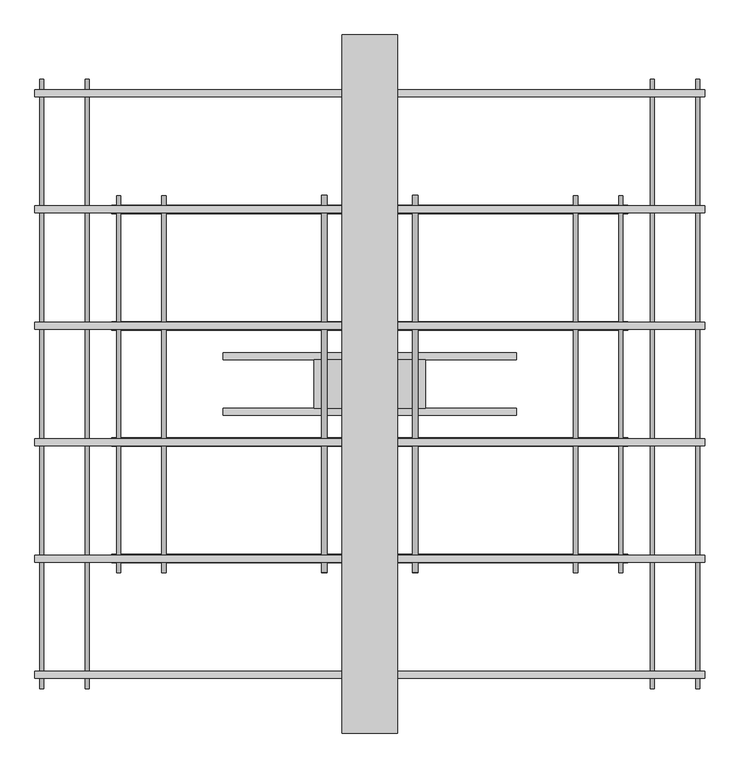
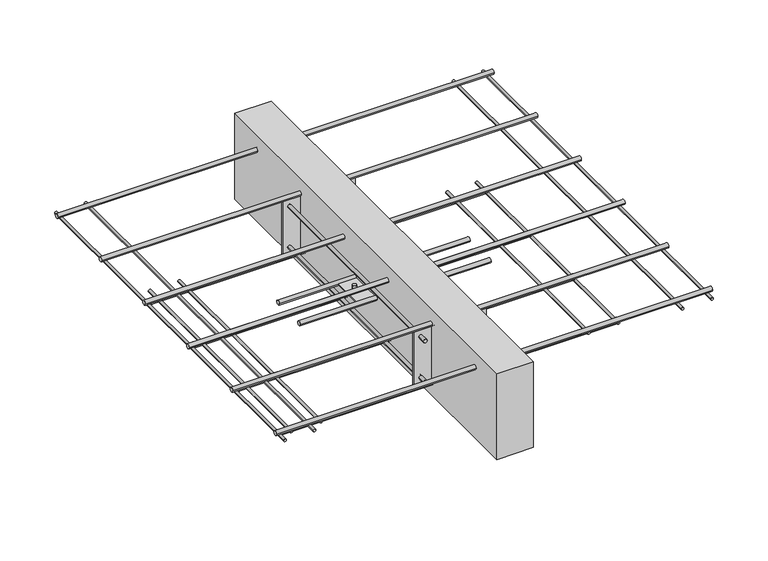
"""IFC4 building model written with IfcOpenShell, lengths in millimetres: proxy geometry, ACINOXplus_Typenreihe_K : KC+ S1."""

from ifc_helpers import new_model, si_unit, point, frame, frame_2d, origin, place, context, project, spatial, polyline, circle_curve, trimmed, segment, composite_curve, outline, extrude, source, transform, mapped, element, save
from ifc_brep_helpers import plane_surface, cylinder_surface, advanced_brep


def generic_models_9b6200fb(model_context):
    return source(origin(), model_context, "Body", "SolidModel", [
        extrude(outline(polyline([(40.0, 500.0), (40.0, -500.0), (-40.0, -500.0), (-40.0, 500.0), (40.0, 500.0)])), frame((0.0, 0.0, -200.0), z_axis=(0.0, 0.0, 1.0), x_axis=(1.0, 0.0, 0.0)), (0.0, 0.0, 1.0), 200.0),
        extrude(outline(composite_curve([segment(trimmed(circle_curve(frame_2d((-40.0, -102.5)), 5.0), [point((-45.0, -102.5))], [point((-35.0, -102.5))], False, "CARTESIAN"), True, "CONTINUOUS"), segment(trimmed(circle_curve(frame_2d((-40.0, -102.5)), 5.0), [point((-35.0, -102.5))], [point((-45.0, -102.5))], False, "CARTESIAN"), True, "CONTINUOUS")], self_intersect=False)), frame((-210.0, 0.0, 0.0), z_axis=(1.0, 0.0, 0.0), x_axis=(0.0, 1.0, 0.0)), (0.0, 0.0, 1.0), 420.0),
        extrude(outline(composite_curve([segment(trimmed(circle_curve(frame_2d((40.0, -102.5)), 5.0), [point((35.0, -102.5))], [point((45.0, -102.5))], False, "CARTESIAN"), True, "CONTINUOUS"), segment(trimmed(circle_curve(frame_2d((40.0, -102.5)), 5.0), [point((45.0, -102.5))], [point((35.0, -102.5))], False, "CARTESIAN"), True, "CONTINUOUS")], self_intersect=False)), frame((-210.0, 0.0, 0.0), z_axis=(1.0, 0.0, 0.0), x_axis=(0.0, 1.0, 0.0)), (0.0, 0.0, 1.0), 420.0),
        advanced_brep(
        [(-69.0, 0.0, -87.5), (-61.0, 0.0, -87.5), (61.0, 0.0, -87.5), (69.0, 0.0, -87.5), (-69.0, 0.0, -117.5), (-61.0, 0.0, -117.5), (61.0, 0.0, -117.5), (69.0, 0.0, -117.5), (-69.0, 0.0, -101.0), (-61.0, 0.0, -101.0), (-61.0, 0.0, -104.0), (-69.0, 0.0, -104.0), (61.0, 0.0, -101.0), (69.0, 0.0, -101.0), (69.0, 0.0, -104.0), (61.0, 0.0, -104.0), (80.0, 35.0, -101.0), (-80.0, 35.0, -101.0), (-80.0, -35.0, -101.0), (80.0, -35.0, -101.0), (80.0, 35.0, -104.0), (80.0, -35.0, -104.0), (-80.0, -35.0, -104.0), (-80.0, 35.0, -104.0)],
        [
            (0, 1, circle_curve(frame((-65.0, 0.0, -87.5), z_axis=(0.0, 0.0, 1.0), x_axis=(1.0, 0.0, 0.0)), 4.0)),
            (1, 0, circle_curve(frame((-65.0, 0.0, -87.5), z_axis=(0.0, 0.0, 1.0), x_axis=(1.0, 0.0, 0.0)), 4.0)),
            (2, 3, circle_curve(frame((65.0, 0.0, -87.5), z_axis=(0.0, 0.0, 1.0), x_axis=(1.0, 0.0, 0.0)), 4.0)),
            (3, 2, circle_curve(frame((65.0, 0.0, -87.5), z_axis=(0.0, 0.0, 1.0), x_axis=(1.0, 0.0, 0.0)), 4.0)),
            (4, 5, circle_curve(frame((-65.0, 0.0, -117.5), z_axis=(0.0, 0.0, -1.0), x_axis=(1.0, 0.0, 0.0)), 4.0)),
            (5, 4, circle_curve(frame((-65.0, 0.0, -117.5), z_axis=(0.0, 0.0, -1.0), x_axis=(1.0, 0.0, 0.0)), 4.0)),
            (6, 7, circle_curve(frame((65.0, 0.0, -117.5), z_axis=(0.0, 0.0, -1.0), x_axis=(1.0, 0.0, 0.0)), 4.0)),
            (7, 6, circle_curve(frame((65.0, 0.0, -117.5), z_axis=(0.0, 0.0, -1.0), x_axis=(1.0, 0.0, 0.0)), 4.0)),
            (0, 8),
            (8, 9, circle_curve(frame((-65.0, 0.0, -101.0), z_axis=(0.0, 0.0, 1.0), x_axis=(1.0, 0.0, 0.0)), 4.0)),
            (9, 1),
            (5, 10),
            (10, 11, circle_curve(frame((-65.0, 0.0, -104.0), z_axis=(0.0, 0.0, -1.0), x_axis=(1.0, 0.0, 0.0)), 4.0)),
            (11, 4),
            (9, 8, circle_curve(frame((-65.0, 0.0, -101.0), z_axis=(0.0, 0.0, 1.0), x_axis=(1.0, 0.0, 0.0)), 4.0)),
            (11, 10, circle_curve(frame((-65.0, 0.0, -104.0), z_axis=(0.0, 0.0, -1.0), x_axis=(1.0, 0.0, 0.0)), 4.0)),
            (2, 12),
            (12, 13, circle_curve(frame((65.0, 0.0, -101.0), z_axis=(0.0, 0.0, 1.0), x_axis=(1.0, 0.0, 0.0)), 4.0)),
            (13, 3),
            (7, 14),
            (14, 15, circle_curve(frame((65.0, 0.0, -104.0), z_axis=(0.0, 0.0, -1.0), x_axis=(1.0, 0.0, 0.0)), 4.0)),
            (15, 6),
            (13, 12, circle_curve(frame((65.0, 0.0, -101.0), z_axis=(0.0, 0.0, 1.0), x_axis=(1.0, 0.0, 0.0)), 4.0)),
            (15, 14, circle_curve(frame((65.0, 0.0, -104.0), z_axis=(0.0, 0.0, -1.0), x_axis=(1.0, 0.0, 0.0)), 4.0)),
            (16, 17),
            (17, 18),
            (18, 19),
            (19, 16),
            (20, 21),
            (21, 22),
            (22, 23),
            (23, 20),
            (16, 20),
            (23, 17),
            (22, 18),
            (21, 19),
        ],
        [
            plane_surface(frame((-61.0, 0.0, -87.5), z_axis=(0.0, 0.0, 1.0), x_axis=(0.0, 1.0, 0.0))),
            plane_surface(frame((-61.0, 0.0, -117.5), z_axis=(0.0, 0.0, -1.0), x_axis=(0.0, -1.0, 0.0))),
            cylinder_surface(frame((-65.0, 0.0, -117.5), z_axis=(0.0, 0.0, 1.0), x_axis=(1.0, 0.0, 0.0)), 4.0),
            cylinder_surface(frame((65.0, 0.0, -102.5), z_axis=(0.0, 0.0, 1.0), x_axis=(1.0, 0.0, 0.0)), 4.0),
            plane_surface(frame((-80.0, 35.0, -101.0), z_axis=(0.0, 0.0, 1.0), x_axis=(-1.0, 0.0, 0.0))),
            plane_surface(frame((-80.0, 35.0, -104.0), z_axis=(0.0, 0.0, -1.0), x_axis=(1.0, 0.0, 0.0))),
            plane_surface(frame((80.0, 35.0, -101.0), z_axis=(0.0, 1.0, 0.0), x_axis=(0.0, 0.0, -1.0))),
            plane_surface(frame((-80.0, 35.0, -101.0), z_axis=(-1.0, 0.0, 0.0), x_axis=(0.0, 0.0, -1.0))),
            plane_surface(frame((-80.0, -35.0, -101.0), z_axis=(0.0, -1.0, 0.0), x_axis=(0.0, 0.0, -1.0))),
            plane_surface(frame((80.0, -35.0, -101.0), z_axis=(1.0, 0.0, 0.0), x_axis=(0.0, 0.0, -1.0))),
        ],
        [
            (0, [[1, 2]]),
            (0, [[3, 4]]),
            (1, [[5, 6]]),
            (1, [[7, 8]]),
            (2, [[-1, 9, 10, 11]]),
            (2, [[-6, 12, 13, 14]]),
            (2, [[-2, -11, 15, -9]]),
            (2, [[-5, -14, 16, -12]]),
            (3, [[-3, 17, 18, 19]]),
            (3, [[-8, 20, 21, 22]]),
            (3, [[-4, -19, 23, -17]]),
            (3, [[-7, -22, 24, -20]]),
            (4, [[25, 26, 27, 28], [-10, -15], [-18, -23]]),
            (5, [[29, 30, 31, 32], [-13, -16], [-21, -24]]),
            (6, [[-25, 33, -32, 34]]),
            (7, [[-26, -34, -31, 35]]),
            (8, [[-27, -35, -30, 36]]),
            (9, [[-28, -36, -29, -33]]),
        ],
    ),
        extrude(outline(polyline([(80.0, -248.5), (80.0, -251.5), (-80.0, -251.5), (-80.0, -248.5), (80.0, -248.5)])), frame((0.0, 0.0, -165.0), z_axis=(0.0, 0.0, 1.0), x_axis=(1.0, 0.0, 0.0)), (0.0, 0.0, 1.0), 125.0),
        extrude(outline(polyline([(80.0, 251.5), (80.0, 248.5), (-80.0, 248.5), (-80.0, 251.5), (80.0, 251.5)])), frame((0.0, 0.0, -165.0), z_axis=(0.0, 0.0, 1.0), x_axis=(1.0, 0.0, 0.0)), (0.0, 0.0, 1.0), 125.0),
        extrude(outline(composite_curve([segment(trimmed(circle_curve(frame_2d((-150.0, -65.0)), 4.0), [point((-150.0, -61.0))], [point((-150.0, -69.0))], False, "CARTESIAN"), True, "CONTINUOUS"), segment(trimmed(circle_curve(frame_2d((-150.0, -65.0)), 4.0), [point((-150.0, -69.0))], [point((-150.0, -61.0))], False, "CARTESIAN"), True, "CONTINUOUS")], self_intersect=False)), frame((0.0, -270.0, 0.0), z_axis=(0.0, 1.0, 0.0), x_axis=(0.0, 0.0, 1.0)), (0.0, 0.0, 1.0), 18.5),
        extrude(outline(composite_curve([segment(trimmed(circle_curve(frame_2d((-150.0, -65.0)), 4.0), [point((-150.0, -69.0))], [point((-150.0, -61.0))], False, "CARTESIAN"), True, "CONTINUOUS"), segment(trimmed(circle_curve(frame_2d((-150.0, -65.0)), 4.0), [point((-150.0, -61.0))], [point((-150.0, -69.0))], False, "CARTESIAN"), True, "CONTINUOUS")], self_intersect=False)), frame((0.0, -248.5, 0.0), z_axis=(0.0, 1.0, 0.0), x_axis=(0.0, 0.0, 1.0)), (0.0, 0.0, 1.0), 497.0),
        extrude(outline(composite_curve([segment(trimmed(circle_curve(frame_2d((-150.0, -65.0)), 4.0), [point((-150.0, -69.0))], [point((-150.0, -61.0))], False, "CARTESIAN"), True, "CONTINUOUS"), segment(trimmed(circle_curve(frame_2d((-150.0, -65.0)), 4.0), [point((-150.0, -61.0))], [point((-150.0, -69.0))], False, "CARTESIAN"), True, "CONTINUOUS")], self_intersect=False)), frame((0.0, 251.5, 0.0), z_axis=(0.0, 1.0, 0.0), x_axis=(0.0, 0.0, 1.0)), (0.0, 0.0, 1.0), 18.5),
        extrude(outline(composite_curve([segment(trimmed(circle_curve(frame_2d((-150.0, 65.0)), 4.0), [point((-150.0, 69.0))], [point((-150.0, 61.0))], False, "CARTESIAN"), True, "CONTINUOUS"), segment(trimmed(circle_curve(frame_2d((-150.0, 65.0)), 4.0), [point((-150.0, 61.0))], [point((-150.0, 69.0))], False, "CARTESIAN"), True, "CONTINUOUS")], self_intersect=False)), frame((0.0, -270.0, 0.0), z_axis=(0.0, 1.0, 0.0), x_axis=(0.0, 0.0, 1.0)), (0.0, 0.0, 1.0), 18.5),
        extrude(outline(composite_curve([segment(trimmed(circle_curve(frame_2d((-150.0, 65.0)), 4.0), [point((-150.0, 61.0))], [point((-150.0, 69.0))], False, "CARTESIAN"), True, "CONTINUOUS"), segment(trimmed(circle_curve(frame_2d((-150.0, 65.0)), 4.0), [point((-150.0, 69.0))], [point((-150.0, 61.0))], False, "CARTESIAN"), True, "CONTINUOUS")], self_intersect=False)), frame((0.0, -248.5, 0.0), z_axis=(0.0, 1.0, 0.0), x_axis=(0.0, 0.0, 1.0)), (0.0, 0.0, 1.0), 497.0),
        extrude(outline(composite_curve([segment(trimmed(circle_curve(frame_2d((-150.0, 65.0)), 4.0), [point((-150.0, 61.0))], [point((-150.0, 69.0))], False, "CARTESIAN"), True, "CONTINUOUS"), segment(trimmed(circle_curve(frame_2d((-150.0, 65.0)), 4.0), [point((-150.0, 69.0))], [point((-150.0, 61.0))], False, "CARTESIAN"), True, "CONTINUOUS")], self_intersect=False)), frame((0.0, 251.5, 0.0), z_axis=(0.0, 1.0, 0.0), x_axis=(0.0, 0.0, 1.0)), (0.0, 0.0, 1.0), 18.5),
        extrude(outline(composite_curve([segment(trimmed(circle_curve(frame_2d((-55.0, -65.0)), 4.0), [point((-55.0, -61.0))], [point((-55.0, -69.0))], False, "CARTESIAN"), True, "CONTINUOUS"), segment(trimmed(circle_curve(frame_2d((-55.0, -65.0)), 4.0), [point((-55.0, -69.0))], [point((-55.0, -61.0))], False, "CARTESIAN"), True, "CONTINUOUS")], self_intersect=False)), frame((0.0, -270.0, 0.0), z_axis=(0.0, 1.0, 0.0), x_axis=(0.0, 0.0, 1.0)), (0.0, 0.0, 1.0), 18.5),
        extrude(outline(composite_curve([segment(trimmed(circle_curve(frame_2d((-55.0, -65.0)), 4.0), [point((-55.0, -69.0))], [point((-55.0, -61.0))], False, "CARTESIAN"), True, "CONTINUOUS"), segment(trimmed(circle_curve(frame_2d((-55.0, -65.0)), 4.0), [point((-55.0, -61.0))], [point((-55.0, -69.0))], False, "CARTESIAN"), True, "CONTINUOUS")], self_intersect=False)), frame((0.0, -248.5, 0.0), z_axis=(0.0, 1.0, 0.0), x_axis=(0.0, 0.0, 1.0)), (0.0, 0.0, 1.0), 497.0),
        extrude(outline(composite_curve([segment(trimmed(circle_curve(frame_2d((-55.0, -65.0)), 4.0), [point((-55.0, -69.0))], [point((-55.0, -61.0))], False, "CARTESIAN"), True, "CONTINUOUS"), segment(trimmed(circle_curve(frame_2d((-55.0, -65.0)), 4.0), [point((-55.0, -61.0))], [point((-55.0, -69.0))], False, "CARTESIAN"), True, "CONTINUOUS")], self_intersect=False)), frame((0.0, 251.5, 0.0), z_axis=(0.0, 1.0, 0.0), x_axis=(0.0, 0.0, 1.0)), (0.0, 0.0, 1.0), 18.5),
        extrude(outline(composite_curve([segment(trimmed(circle_curve(frame_2d((-55.0, 65.0)), 4.0), [point((-55.0, 69.0))], [point((-55.0, 61.0))], False, "CARTESIAN"), True, "CONTINUOUS"), segment(trimmed(circle_curve(frame_2d((-55.0, 65.0)), 4.0), [point((-55.0, 61.0))], [point((-55.0, 69.0))], False, "CARTESIAN"), True, "CONTINUOUS")], self_intersect=False)), frame((0.0, -270.0, 0.0), z_axis=(0.0, 1.0, 0.0), x_axis=(0.0, 0.0, 1.0)), (0.0, 0.0, 1.0), 18.5),
        extrude(outline(composite_curve([segment(trimmed(circle_curve(frame_2d((-55.0, 65.0)), 4.0), [point((-55.0, 61.0))], [point((-55.0, 69.0))], False, "CARTESIAN"), True, "CONTINUOUS"), segment(trimmed(circle_curve(frame_2d((-55.0, 65.0)), 4.0), [point((-55.0, 69.0))], [point((-55.0, 61.0))], False, "CARTESIAN"), True, "CONTINUOUS")], self_intersect=False)), frame((0.0, -248.5, 0.0), z_axis=(0.0, 1.0, 0.0), x_axis=(0.0, 0.0, 1.0)), (0.0, 0.0, 1.0), 497.0),
        extrude(outline(composite_curve([segment(trimmed(circle_curve(frame_2d((-55.0, 65.0)), 4.0), [point((-55.0, 61.0))], [point((-55.0, 69.0))], False, "CARTESIAN"), True, "CONTINUOUS"), segment(trimmed(circle_curve(frame_2d((-55.0, 65.0)), 4.0), [point((-55.0, 69.0))], [point((-55.0, 61.0))], False, "CARTESIAN"), True, "CONTINUOUS")], self_intersect=False)), frame((0.0, 251.5, 0.0), z_axis=(0.0, 1.0, 0.0), x_axis=(0.0, 0.0, 1.0)), (0.0, 0.0, 1.0), 18.5),
        extrude(outline(composite_curve([segment(trimmed(circle_curve(frame_2d((83.3333333, -171.0)), 6.0), [point((77.3333333, -171.0))], [point((89.3333333, -171.0))], False, "CARTESIAN"), True, "CONTINUOUS"), segment(trimmed(circle_curve(frame_2d((83.3333333, -171.0)), 6.0), [point((89.3333333, -171.0))], [point((77.3333333, -171.0))], False, "CARTESIAN"), True, "CONTINUOUS")], self_intersect=False)), frame((-370.0, 0.0, 0.0), z_axis=(1.0, 0.0, 0.0), x_axis=(0.0, 1.0, 0.0)), (0.0, 0.0, 1.0), 740.0),
        extrude(outline(composite_curve([segment(trimmed(circle_curve(frame_2d((-83.3333333, -171.0)), 6.0), [point((-89.3333333, -171.0))], [point((-77.3333333, -171.0))], False, "CARTESIAN"), True, "CONTINUOUS"), segment(trimmed(circle_curve(frame_2d((-83.3333333, -171.0)), 6.0), [point((-77.3333333, -171.0))], [point((-89.3333333, -171.0))], False, "CARTESIAN"), True, "CONTINUOUS")], self_intersect=False)), frame((-370.0, 0.0, 0.0), z_axis=(1.0, 0.0, 0.0), x_axis=(0.0, 1.0, 0.0)), (0.0, 0.0, 1.0), 740.0),
        extrude(outline(composite_curve([segment(trimmed(circle_curve(frame_2d((250.0, -171.0)), 6.0), [point((244.0, -171.0))], [point((256.0, -171.0))], False, "CARTESIAN"), True, "CONTINUOUS"), segment(trimmed(circle_curve(frame_2d((250.0, -171.0)), 6.0), [point((256.0, -171.0))], [point((244.0, -171.0))], False, "CARTESIAN"), True, "CONTINUOUS")], self_intersect=False)), frame((-370.0, 0.0, 0.0), z_axis=(1.0, 0.0, 0.0), x_axis=(0.0, 1.0, 0.0)), (0.0, 0.0, 1.0), 740.0),
        extrude(outline(composite_curve([segment(trimmed(circle_curve(frame_2d((-250.0, -171.0)), 6.0), [point((-256.0, -171.0))], [point((-244.0, -171.0))], False, "CARTESIAN"), True, "CONTINUOUS"), segment(trimmed(circle_curve(frame_2d((-250.0, -171.0)), 6.0), [point((-244.0, -171.0))], [point((-256.0, -171.0))], False, "CARTESIAN"), True, "CONTINUOUS")], self_intersect=False)), frame((-370.0, 0.0, 0.0), z_axis=(1.0, 0.0, 0.0), x_axis=(0.0, 1.0, 0.0)), (0.0, 0.0, 1.0), 740.0),
        extrude(outline(composite_curve([segment(trimmed(circle_curve(frame_2d((83.3333333, -35.0)), 5.0), [point((78.3333333, -35.0))], [point((88.3333333, -35.0))], False, "CARTESIAN"), True, "CONTINUOUS"), segment(trimmed(circle_curve(frame_2d((83.3333333, -35.0)), 5.0), [point((88.3333333, -35.0))], [point((78.3333333, -35.0))], False, "CARTESIAN"), True, "CONTINUOUS")], self_intersect=False)), frame((-480.0, 0.0, 0.0), z_axis=(1.0, 0.0, 0.0), x_axis=(0.0, 1.0, 0.0)), (0.0, 0.0, 1.0), 960.0),
        extrude(outline(composite_curve([segment(trimmed(circle_curve(frame_2d((-83.3333333, -35.0)), 5.0), [point((-88.3333333, -35.0))], [point((-78.3333333, -35.0))], False, "CARTESIAN"), True, "CONTINUOUS"), segment(trimmed(circle_curve(frame_2d((-83.3333333, -35.0)), 5.0), [point((-78.3333333, -35.0))], [point((-88.3333333, -35.0))], False, "CARTESIAN"), True, "CONTINUOUS")], self_intersect=False)), frame((-480.0, 0.0, 0.0), z_axis=(1.0, 0.0, 0.0), x_axis=(0.0, 1.0, 0.0)), (0.0, 0.0, 1.0), 960.0),
        extrude(outline(composite_curve([segment(trimmed(circle_curve(frame_2d((250.0, -35.0)), 5.0), [point((245.0, -35.0))], [point((255.0, -35.0))], False, "CARTESIAN"), True, "CONTINUOUS"), segment(trimmed(circle_curve(frame_2d((250.0, -35.0)), 5.0), [point((255.0, -35.0))], [point((245.0, -35.0))], False, "CARTESIAN"), True, "CONTINUOUS")], self_intersect=False)), frame((-480.0, 0.0, 0.0), z_axis=(1.0, 0.0, 0.0), x_axis=(0.0, 1.0, 0.0)), (0.0, 0.0, 1.0), 960.0),
        extrude(outline(composite_curve([segment(trimmed(circle_curve(frame_2d((416.6666667, -35.0)), 5.0), [point((411.6666667, -35.0))], [point((421.6666667, -35.0))], False, "CARTESIAN"), True, "CONTINUOUS"), segment(trimmed(circle_curve(frame_2d((416.6666667, -35.0)), 5.0), [point((421.6666667, -35.0))], [point((411.6666667, -35.0))], False, "CARTESIAN"), True, "CONTINUOUS")], self_intersect=False)), frame((-480.0, 0.0, 0.0), z_axis=(1.0, 0.0, 0.0), x_axis=(0.0, 1.0, 0.0)), (0.0, 0.0, 1.0), 960.0),
        extrude(outline(composite_curve([segment(trimmed(circle_curve(frame_2d((-250.0, -35.0)), 5.0), [point((-255.0, -35.0))], [point((-245.0, -35.0))], False, "CARTESIAN"), True, "CONTINUOUS"), segment(trimmed(circle_curve(frame_2d((-250.0, -35.0)), 5.0), [point((-245.0, -35.0))], [point((-255.0, -35.0))], False, "CARTESIAN"), True, "CONTINUOUS")], self_intersect=False)), frame((-480.0, 0.0, 0.0), z_axis=(1.0, 0.0, 0.0), x_axis=(0.0, 1.0, 0.0)), (0.0, 0.0, 1.0), 960.0),
        extrude(outline(composite_curve([segment(trimmed(circle_curve(frame_2d((-416.6666667, -35.0)), 5.0), [point((-421.6666667, -35.0))], [point((-411.6666667, -35.0))], False, "CARTESIAN"), True, "CONTINUOUS"), segment(trimmed(circle_curve(frame_2d((-416.6666667, -35.0)), 5.0), [point((-411.6666667, -35.0))], [point((-421.6666667, -35.0))], False, "CARTESIAN"), True, "CONTINUOUS")], self_intersect=False)), frame((-480.0, 0.0, 0.0), z_axis=(1.0, 0.0, 0.0), x_axis=(0.0, 1.0, 0.0)), (0.0, 0.0, 1.0), 960.0),
        extrude(outline(composite_curve([segment(trimmed(circle_curve(frame_2d((-162.0, -360.0)), 3.0), [point((-162.0, -357.0))], [point((-162.0, -363.0))], False, "CARTESIAN"), True, "CONTINUOUS"), segment(trimmed(circle_curve(frame_2d((-162.0, -360.0)), 3.0), [point((-162.0, -363.0))], [point((-162.0, -357.0))], False, "CARTESIAN"), True, "CONTINUOUS")], self_intersect=False)), frame((0.0, -270.0, 0.0), z_axis=(0.0, 1.0, 0.0), x_axis=(0.0, 0.0, 1.0)), (0.0, 0.0, 1.0), 540.0),
        extrude(outline(composite_curve([segment(trimmed(circle_curve(frame_2d((-162.0, -295.0)), 3.0), [point((-162.0, -292.0))], [point((-162.0, -298.0))], False, "CARTESIAN"), True, "CONTINUOUS"), segment(trimmed(circle_curve(frame_2d((-162.0, -295.0)), 3.0), [point((-162.0, -298.0))], [point((-162.0, -292.0))], False, "CARTESIAN"), True, "CONTINUOUS")], self_intersect=False)), frame((0.0, -270.0, 0.0), z_axis=(0.0, 1.0, 0.0), x_axis=(0.0, 0.0, 1.0)), (0.0, 0.0, 1.0), 540.0),
        extrude(outline(composite_curve([segment(trimmed(circle_curve(frame_2d((-162.0, 295.0)), 3.0), [point((-162.0, 298.0))], [point((-162.0, 292.0))], False, "CARTESIAN"), True, "CONTINUOUS"), segment(trimmed(circle_curve(frame_2d((-162.0, 295.0)), 3.0), [point((-162.0, 292.0))], [point((-162.0, 298.0))], False, "CARTESIAN"), True, "CONTINUOUS")], self_intersect=False)), frame((0.0, -270.0, 0.0), z_axis=(0.0, 1.0, 0.0), x_axis=(0.0, 0.0, 1.0)), (0.0, 0.0, 1.0), 540.0),
        extrude(outline(composite_curve([segment(trimmed(circle_curve(frame_2d((-162.0, 360.0)), 3.0), [point((-162.0, 363.0))], [point((-162.0, 357.0))], False, "CARTESIAN"), True, "CONTINUOUS"), segment(trimmed(circle_curve(frame_2d((-162.0, 360.0)), 3.0), [point((-162.0, 357.0))], [point((-162.0, 363.0))], False, "CARTESIAN"), True, "CONTINUOUS")], self_intersect=False)), frame((0.0, -270.0, 0.0), z_axis=(0.0, 1.0, 0.0), x_axis=(0.0, 0.0, 1.0)), (0.0, 0.0, 1.0), 540.0),
        extrude(outline(composite_curve([segment(trimmed(circle_curve(frame_2d((-43.0, 405.0)), 3.0), [point((-43.0, 408.0))], [point((-43.0, 402.0))], False, "CARTESIAN"), True, "CONTINUOUS"), segment(trimmed(circle_curve(frame_2d((-43.0, 405.0)), 3.0), [point((-43.0, 402.0))], [point((-43.0, 408.0))], False, "CARTESIAN"), True, "CONTINUOUS")], self_intersect=False)), frame((0.0, -436.6666667, 0.0), z_axis=(0.0, 1.0, 0.0), x_axis=(0.0, 0.0, 1.0)), (0.0, 0.0, 1.0), 873.3333333),
        extrude(outline(composite_curve([segment(trimmed(circle_curve(frame_2d((-43.0, 470.0)), 3.0), [point((-43.0, 473.0))], [point((-43.0, 467.0))], False, "CARTESIAN"), True, "CONTINUOUS"), segment(trimmed(circle_curve(frame_2d((-43.0, 470.0)), 3.0), [point((-43.0, 467.0))], [point((-43.0, 473.0))], False, "CARTESIAN"), True, "CONTINUOUS")], self_intersect=False)), frame((0.0, -436.6666667, 0.0), z_axis=(0.0, 1.0, 0.0), x_axis=(0.0, 0.0, 1.0)), (0.0, 0.0, 1.0), 873.3333333),
        extrude(outline(composite_curve([segment(trimmed(circle_curve(frame_2d((-43.0, -470.0)), 3.0), [point((-43.0, -467.0))], [point((-43.0, -473.0))], False, "CARTESIAN"), True, "CONTINUOUS"), segment(trimmed(circle_curve(frame_2d((-43.0, -470.0)), 3.0), [point((-43.0, -473.0))], [point((-43.0, -467.0))], False, "CARTESIAN"), True, "CONTINUOUS")], self_intersect=False)), frame((0.0, -436.6666667, 0.0), z_axis=(0.0, 1.0, 0.0), x_axis=(0.0, 0.0, 1.0)), (0.0, 0.0, 1.0), 873.3333333),
        extrude(outline(composite_curve([segment(trimmed(circle_curve(frame_2d((-43.0, -405.0)), 3.0), [point((-43.0, -402.0))], [point((-43.0, -408.0))], False, "CARTESIAN"), True, "CONTINUOUS"), segment(trimmed(circle_curve(frame_2d((-43.0, -405.0)), 3.0), [point((-43.0, -408.0))], [point((-43.0, -402.0))], False, "CARTESIAN"), True, "CONTINUOUS")], self_intersect=False)), frame((0.0, -436.6666667, 0.0), z_axis=(0.0, 1.0, 0.0), x_axis=(0.0, 0.0, 1.0)), (0.0, 0.0, 1.0), 873.3333333),
    ])


if __name__ == "__main__":
    model = new_model("IFC4")
    model_context = context("Model", 3, world=origin())
    ifc_project = project(units=[si_unit("LENGTHUNIT", "METRE", prefix="MILLI")], contexts=[model_context])
    site = spatial("IfcSite", under=ifc_project)
    building = spatial("IfcBuilding", under=site)
    placement = place(None, origin())
    generic_models_shape = generic_models_9b6200fb(model_context)
    element("IfcBuildingElementProxy", 1, Name="ACINOXplus_Typenreihe_K : KC+ S1", ObjectType="ACINOXplus_Typenreihe_K : KC+ S1", at=placement, inside=building, context=model_context, shape_type="MappedRepresentation", body=[
        mapped(generic_models_shape, transform((0.0, 0.0, 0.0), x_axis=(1.0, 0.0, 0.0), y_axis=(0.0, 1.0, 0.0), z_axis=(0.0, 0.0, 1.0))),
    ])
    save(model, "model.ifc")
